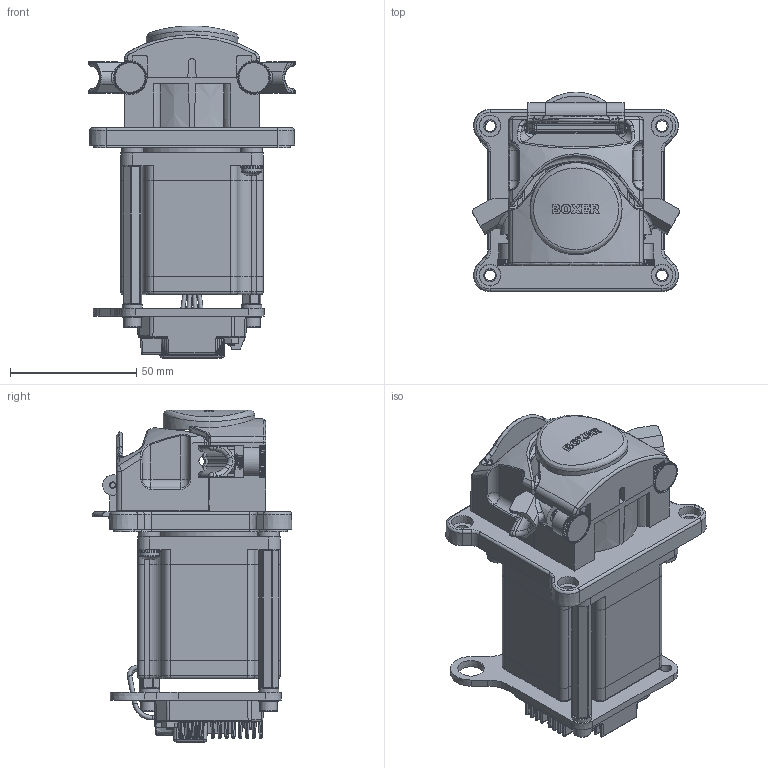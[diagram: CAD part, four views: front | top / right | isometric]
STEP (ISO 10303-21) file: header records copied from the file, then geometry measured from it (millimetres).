
FILE_DESCRIPTION (( 'STEP AP214' ), '1' );
FILE_NAME ('SOLID_15KS+_NEMA23+A4.STEP', '2025-03-27T10:06:59', ( '' ), ( '' ), 'SwSTEP 2.0', 'SolidWorks 2021', '' );
FILE_SCHEMA (( 'AUTOMOTIVE_DESIGN' ));
Length unit declared in the file: millimetre
Products named in the file (1): SOLID_15KS+_NEMA23+A4
Bounding box: 81.81 x 78.98 x 131.28 mm (x, y, z)
Volume: 179909.5 mm3; surface area: 97995.6 mm2
Topology: 6 solids, 30 shells, 3966 faces, 10616 edges, 6742 vertices
Faces by surface type: plane 2181, cylinder 670, bspline 545, cone 370, sphere 104, torus 96
Full cylindrical faces by diameter (mm): 1.5 x8, 1.65 x12, 2 x4, 2.2 x8, 2.5 x8, 2.6 x2, 2.7 x4, 2.8 x2, 2.98 x2, 3 x5, 3.1 x1, 3.2 x2, 3.4 x4, 3.5 x4, 3.7 x2, 4 x8, 4.2 x4, 4.3 x2, 4.5 x5, 4.8 x2, 5 x12, 5.2 x2, 5.5 x2, 6.5 x4, 7 x4, 8 x6, 31 x1, 38.1 x2
Entity records: 193311 total; most frequent: CARTESIAN_POINT 58195, ORIENTED_EDGE 20474, DIRECTION 16857, EDGE_CURVE 10237, VERTEX_POINT 6634, LINE 5841, VECTOR 5841, AXIS2_PLACEMENT_3D 5508
